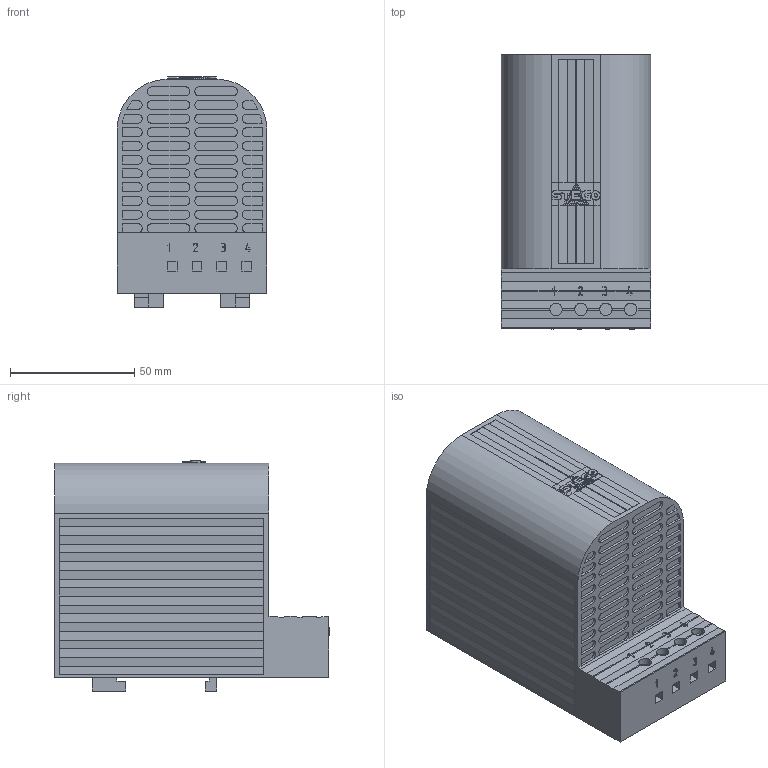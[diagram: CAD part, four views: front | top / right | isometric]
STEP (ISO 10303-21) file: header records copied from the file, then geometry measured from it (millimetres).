
FILE_DESCRIPTION (( 'STEP AP214' ), '1' );
FILE_NAME ('CS 06000 u. 06010.STEP', '2013-07-23T06:59:14', ( '' ), ( '' ), 'SwSTEP 2.0', 'SolidWorks 2013', '' );
FILE_SCHEMA (( 'AUTOMOTIVE_DESIGN' ));
Length unit declared in the file: millimetre
Products named in the file (1): CS 06000 u. 06010
Bounding box: 60 x 110.3 x 92.5 mm (x, y, z)
Volume: 458737 mm3; surface area: 42714.5 mm2
Topology: 2 solids, 2 shells, 1081 faces, 2812 edges, 1848 vertices
Faces by surface type: plane 733, cylinder 184, bspline 164
Entity records: 35424 total; most frequent: CARTESIAN_POINT 9690, ORIENTED_EDGE 5624, DIRECTION 4675, EDGE_CURVE 2812, LINE 2081, VECTOR 2081, VERTEX_POINT 1848, AXIS2_PLACEMENT_3D 1297
